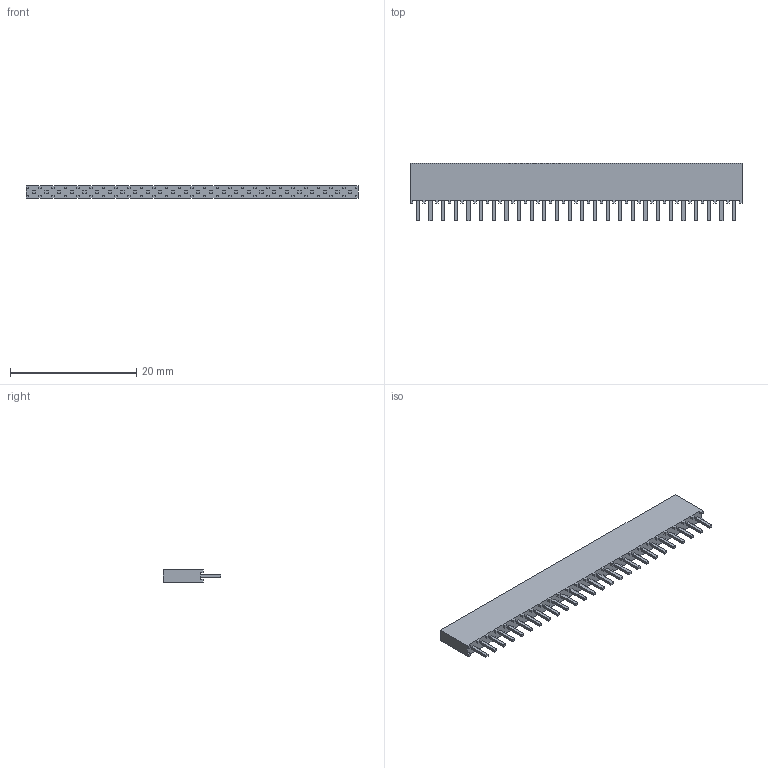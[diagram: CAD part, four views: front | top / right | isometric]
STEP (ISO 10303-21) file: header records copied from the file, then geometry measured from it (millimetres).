
FILE_DESCRIPTION (( 'STEP AP203' ), '1' );
FILE_NAME ('PM200-1-26-Z-6.35-XX(L9.15) (2.00等齬 眻齬譫 呿詢6.35-HCTL).STEP', '2026-03-27T09:33:55', ( '' ), ( '' ), 'SwSTEP 2.0', 'SolidWorks 2025', '' );
FILE_SCHEMA (( 'CONFIG_CONTROL_DESIGN' ));
Length unit declared in the file: millimetre
Products named in the file (1): PM200-1-26-Z-6.35-XX(L9.15) (2.00单排 直排母 塑高6.35-HCTL)
Bounding box: 52.5 x 9.15 x 2 mm (x, y, z)
Volume: 634.5 mm3; surface area: 1078.2 mm2
Topology: 1 solids, 1 shells, 582 faces, 1480 edges, 952 vertices
Faces by surface type: plane 582
Entity records: 17109 total; most frequent: CARTESIAN_POINT 3015, ORIENTED_EDGE 2960, DIRECTION 2646, EDGE_CURVE 1480, LINE 1480, VECTOR 1480, VERTEX_POINT 952, EDGE_LOOP 634
